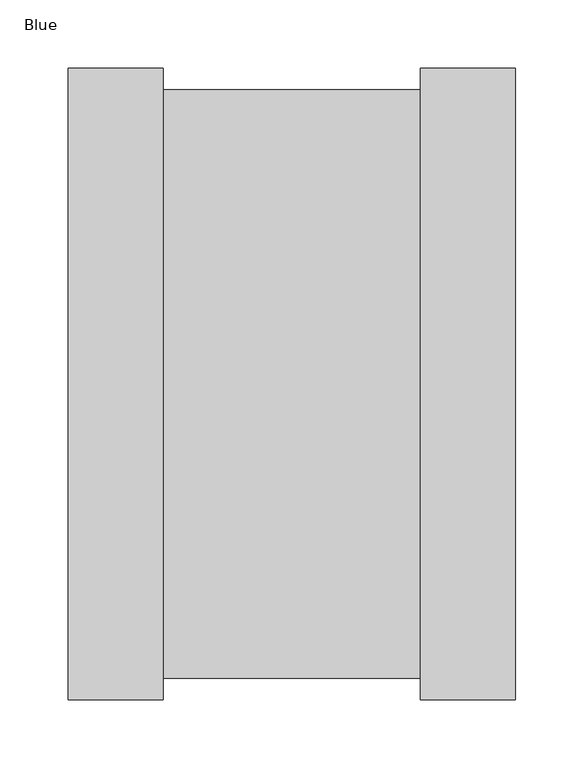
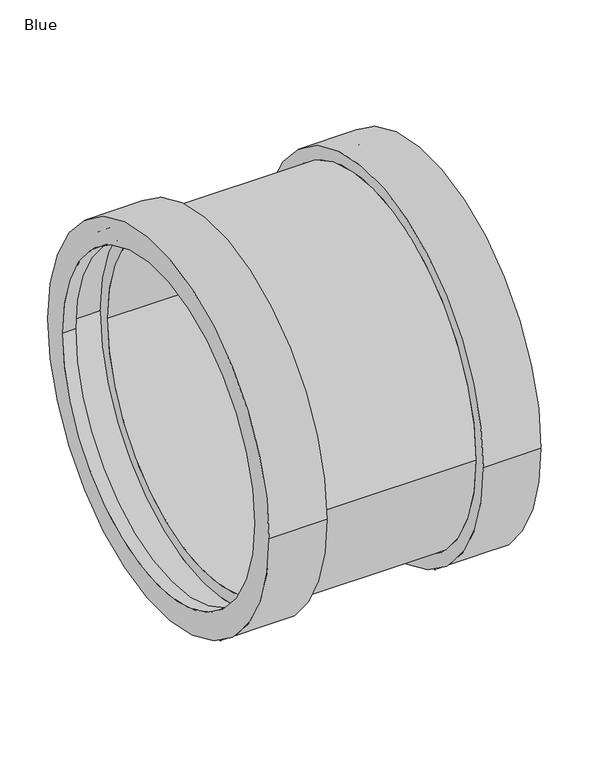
"""IFC4 building model written with IfcOpenShell, lengths in millimetres: pipe fitting geometry, AWADUKT PP Union USM : Blue."""

from ifc_helpers import new_model, si_unit, frame, origin, place, context, project, spatial, polyline, circle_curve, source, transform, mapped, element, save
from ifc_brep_helpers import plane_surface, cylinder_surface, revolved_surface, advanced_brep


def blue_81cd2d72(model_context):
    return source(origin(), model_context, "Body", "AdvancedBrep", [
        advanced_brep(
        [(-109.625, 200.0, 0.0), (-109.625, -200.0, 0.0), (109.625, -200.0, 0.0), (109.625, 200.0, 0.0), (-148.25, 215.45, 0.0), (-148.25, -215.45, 0.0), (-109.625, -215.45, 0.0), (-109.625, 215.45, 0.0), (-163.7, 200.0, 0.0), (-163.7, -200.0, 0.0), (-148.25, -200.0, 0.0), (-148.25, 200.0, 0.0), (-94.175, 230.9, 0.0), (-94.175, -230.9, 0.0), (-163.7, -230.9, 0.0), (-163.7, 230.9, 0.0), (94.175, 215.45, 0.0), (94.175, -215.45, 0.0), (-94.175, -215.45, 0.0), (-94.175, 215.45, 0.0), (163.7, 230.9, 0.0), (163.7, -230.9, 0.0), (94.175, -230.9, 0.0), (94.175, 230.9, 0.0), (148.25, 200.0, 0.0), (148.25, -200.0, 0.0), (163.7, -200.0, 0.0), (163.7, 200.0, 0.0), (109.625, 215.45, 0.0), (109.625, -215.45, 0.0), (148.25, -215.45, 0.0), (148.25, 215.45, 0.0)],
        [
            (0, 1, circle_curve(frame((-109.625, 0.0, 0.0), z_axis=(-1.0, 0.0, 0.0), x_axis=(0.0, -1.0, 0.0)), 200.0)),
            (1, 2),
            (2, 3, circle_curve(frame((109.625, 0.0, 0.0), z_axis=(1.0, 0.0, 0.0), x_axis=(0.0, -1.0, 0.0)), 200.0)),
            (3, 0),
            (4, 5, circle_curve(frame((-148.25, 0.0, 0.0), z_axis=(-1.0, 0.0, 0.0), x_axis=(0.0, -1.0, 0.0)), 215.45)),
            (5, 6),
            (6, 7, circle_curve(frame((-109.625, 0.0, 0.0), z_axis=(1.0, 0.0, 0.0), x_axis=(0.0, -1.0, 0.0)), 215.45)),
            (7, 4),
            (8, 9, circle_curve(frame((-163.7, 0.0, 0.0), z_axis=(-1.0, 0.0, 0.0), x_axis=(0.0, -1.0, 0.0)), 200.0)),
            (9, 10),
            (10, 11, circle_curve(frame((-148.25, 0.0, 0.0), z_axis=(1.0, 0.0, 0.0), x_axis=(0.0, -1.0, 0.0)), 200.0)),
            (11, 8),
            (12, 13, circle_curve(frame((-94.175, 0.0, 0.0), z_axis=(-1.0, 0.0, 0.0), x_axis=(0.0, -1.0, 0.0)), 230.9)),
            (13, 14),
            (14, 15, circle_curve(frame((-163.7, 0.0, 0.0), z_axis=(1.0, 0.0, 0.0), x_axis=(0.0, -1.0, 0.0)), 230.9)),
            (15, 12),
            (16, 17, circle_curve(frame((94.175, 0.0, 0.0), z_axis=(-1.0, 0.0, 0.0), x_axis=(0.0, -1.0, 0.0)), 215.45)),
            (17, 18),
            (18, 19, circle_curve(frame((-94.175, 0.0, 0.0), z_axis=(1.0, 0.0, 0.0), x_axis=(0.0, -1.0, 0.0)), 215.45)),
            (19, 16),
            (20, 21, circle_curve(frame((163.7, 0.0, 0.0), z_axis=(-1.0, 0.0, 0.0), x_axis=(0.0, -1.0, 0.0)), 230.9)),
            (21, 22),
            (22, 23, circle_curve(frame((94.175, 0.0, 0.0), z_axis=(1.0, 0.0, 0.0), x_axis=(0.0, -1.0, 0.0)), 230.9)),
            (23, 20),
            (24, 25, circle_curve(frame((148.25, 0.0, 0.0), z_axis=(-1.0, 0.0, 0.0), x_axis=(0.0, -1.0, 0.0)), 200.0)),
            (25, 26),
            (26, 27, circle_curve(frame((163.7, 0.0, 0.0), z_axis=(1.0, 0.0, 0.0), x_axis=(0.0, -1.0, 0.0)), 200.0)),
            (27, 24),
            (28, 29, circle_curve(frame((109.625, 0.0, 0.0), z_axis=(-1.0, 0.0, 0.0), x_axis=(0.0, -1.0, 0.0)), 215.45)),
            (29, 30),
            (30, 31, circle_curve(frame((148.25, 0.0, 0.0), z_axis=(1.0, 0.0, 0.0), x_axis=(0.0, -1.0, 0.0)), 215.45)),
            (31, 28),
            (1, 0, circle_curve(frame((-109.625, 0.0, 0.0), z_axis=(-1.0, 0.0, 0.0), x_axis=(0.0, 1.0, 0.0)), 200.0)),
            (3, 2, circle_curve(frame((109.625, 0.0, 0.0), z_axis=(1.0, 0.0, 0.0), x_axis=(0.0, 1.0, 0.0)), 200.0)),
            (6, 7, circle_curve(frame((-109.625, 0.0, 0.0), z_axis=(-1.0, 0.0, 0.0), x_axis=(0.0, 1.0, 0.0)), 215.45)),
            (5, 4, circle_curve(frame((-148.25, 0.0, 0.0), z_axis=(-1.0, 0.0, 0.0), x_axis=(0.0, 1.0, 0.0)), 215.45)),
            (10, 11, circle_curve(frame((-148.25, 0.0, 0.0), z_axis=(-1.0, 0.0, 0.0), x_axis=(0.0, 1.0, 0.0)), 200.0)),
            (9, 8, circle_curve(frame((-163.7, 0.0, 0.0), z_axis=(-1.0, 0.0, 0.0), x_axis=(0.0, 1.0, 0.0)), 200.0)),
            (14, 15, circle_curve(frame((-163.7, 0.0, 0.0), z_axis=(-1.0, 0.0, 0.0), x_axis=(0.0, 1.0, 0.0)), 230.9)),
            (13, 12, circle_curve(frame((-94.175, 0.0, 0.0), z_axis=(-1.0, 0.0, 0.0), x_axis=(0.0, 1.0, 0.0)), 230.9)),
            (18, 19, circle_curve(frame((-94.175, 0.0, 0.0), z_axis=(-1.0, 0.0, 0.0), x_axis=(0.0, 1.0, 0.0)), 215.45)),
            (17, 16, circle_curve(frame((94.175, 0.0, 0.0), z_axis=(-1.0, 0.0, 0.0), x_axis=(0.0, 1.0, 0.0)), 215.45)),
            (22, 23, circle_curve(frame((94.175, 0.0, 0.0), z_axis=(-1.0, 0.0, 0.0), x_axis=(0.0, 1.0, 0.0)), 230.9)),
            (21, 20, circle_curve(frame((163.7, 0.0, 0.0), z_axis=(-1.0, 0.0, 0.0), x_axis=(0.0, 1.0, 0.0)), 230.9)),
            (26, 27, circle_curve(frame((163.7, 0.0, 0.0), z_axis=(-1.0, 0.0, 0.0), x_axis=(0.0, 1.0, 0.0)), 200.0)),
            (25, 24, circle_curve(frame((148.25, 0.0, 0.0), z_axis=(-1.0, 0.0, 0.0), x_axis=(0.0, 1.0, 0.0)), 200.0)),
            (30, 31, circle_curve(frame((148.25, 0.0, 0.0), z_axis=(-1.0, 0.0, 0.0), x_axis=(0.0, 1.0, 0.0)), 215.45)),
            (29, 28, circle_curve(frame((109.625, 0.0, 0.0), z_axis=(-1.0, 0.0, 0.0), x_axis=(0.0, 1.0, 0.0)), 215.45)),
        ],
        [
            revolved_surface(polyline([(109.625, -200.0, 0.0), (-109.625, -200.0, 0.0)]), (0.0, 0.0, 0.0), (1.0, 0.0, 0.0)),
            revolved_surface(polyline([(-109.625, -215.45, 0.0), (-148.25, -215.45, 0.0)]), (0.0, 0.0, 0.0), (1.0, 0.0, 0.0)),
            revolved_surface(polyline([(-148.25, -200.0, 0.0), (-163.7, -200.0, 0.0)]), (0.0, 0.0, 0.0), (1.0, 0.0, 0.0)),
            cylinder_surface(frame((0.0, 0.0, 0.0), z_axis=(1.0, 0.0, 0.0), x_axis=(0.0, -1.0, 0.0)), 230.9),
            cylinder_surface(frame((0.0, 0.0, 0.0), z_axis=(1.0, 0.0, 0.0), x_axis=(0.0, -1.0, 0.0)), 215.45),
            revolved_surface(polyline([(163.7, -200.0, 0.0), (148.25, -200.0, 0.0)]), (0.0, 0.0, 0.0), (1.0, 0.0, 0.0)),
            revolved_surface(polyline([(148.25, -215.45, 0.0), (109.625, -215.45, 0.0)]), (0.0, 0.0, 0.0), (1.0, 0.0, 0.0)),
            revolved_surface(polyline([(109.625, 200.0, 0.0), (-109.625, 200.0, 0.0)]), (0.0, 0.0, 0.0), (1.0, 0.0, 0.0)),
            plane_surface(frame((-109.625, 0.0, 0.0), z_axis=(-1.0, 0.0, 0.0), x_axis=(0.0, 1.0, 0.0))),
            revolved_surface(polyline([(-109.625, 215.45, 0.0), (-148.25, 215.45, 0.0)]), (0.0, 0.0, 0.0), (1.0, 0.0, 0.0)),
            plane_surface(frame((-148.25, 0.0, 0.0), z_axis=(1.0, 0.0, 0.0), x_axis=(0.0, 1.0, 0.0))),
            revolved_surface(polyline([(-148.25, 200.0, 0.0), (-163.7, 200.0, 0.0)]), (0.0, 0.0, 0.0), (1.0, 0.0, 0.0)),
            plane_surface(frame((-163.7, 0.0, 0.0), z_axis=(-1.0, 0.0, 0.0), x_axis=(0.0, 1.0, 0.0))),
            cylinder_surface(frame((0.0, 0.0, 0.0), z_axis=(1.0, 0.0, 0.0), x_axis=(0.0, 1.0, 0.0)), 230.9),
            plane_surface(frame((-94.175, 0.0, 0.0), z_axis=(1.0, 0.0, 0.0), x_axis=(0.0, 1.0, 0.0))),
            cylinder_surface(frame((0.0, 0.0, 0.0), z_axis=(1.0, 0.0, 0.0), x_axis=(0.0, 1.0, 0.0)), 215.45),
            plane_surface(frame((94.175, 0.0, 0.0), z_axis=(-1.0, 0.0, 0.0), x_axis=(0.0, 1.0, 0.0))),
            plane_surface(frame((163.7, 0.0, 0.0), z_axis=(1.0, 0.0, 0.0), x_axis=(0.0, 1.0, 0.0))),
            revolved_surface(polyline([(163.7, 200.0, 0.0), (148.25, 200.0, 0.0)]), (0.0, 0.0, 0.0), (1.0, 0.0, 0.0)),
            plane_surface(frame((148.25, 0.0, 0.0), z_axis=(-1.0, 0.0, 0.0), x_axis=(0.0, 1.0, 0.0))),
            revolved_surface(polyline([(148.25, 215.45, 0.0), (109.625, 215.45, 0.0)]), (0.0, 0.0, 0.0), (1.0, 0.0, 0.0)),
            plane_surface(frame((109.625, 0.0, 0.0), z_axis=(1.0, 0.0, 0.0), x_axis=(0.0, 1.0, 0.0))),
        ],
        [
            (0, [[1, 2, 3, 4]]),
            (1, [[5, 6, 7, 8]]),
            (2, [[9, 10, 11, 12]]),
            (3, [[13, 14, 15, 16]]),
            (4, [[17, 18, 19, 20]]),
            (3, [[21, 22, 23, 24]]),
            (5, [[25, 26, 27, 28]]),
            (6, [[29, 30, 31, 32]]),
            (7, [[33, -4, 34, -2]]),
            (8, [[35, -7], [-33, -1]]),
            (9, [[36, -8, -35, -6]]),
            (10, [[-36, -5], [37, -11]]),
            (11, [[38, -12, -37, -10]]),
            (12, [[39, -15], [-38, -9]]),
            (13, [[40, -16, -39, -14]]),
            (14, [[-40, -13], [41, -19]]),
            (15, [[42, -20, -41, -18]]),
            (16, [[43, -23], [-42, -17]]),
            (13, [[44, -24, -43, -22]]),
            (17, [[-44, -21], [45, -27]]),
            (18, [[46, -28, -45, -26]]),
            (19, [[47, -31], [-46, -25]]),
            (20, [[48, -32, -47, -30]]),
            (21, [[-48, -29], [-34, -3]]),
        ],
    ),
    ])


if __name__ == "__main__":
    model = new_model("IFC4")
    model_context = context("Model", 3, world=origin())
    ifc_project = project(units=[si_unit("LENGTHUNIT", "METRE", prefix="MILLI")], contexts=[model_context])
    site = spatial("IfcSite", under=ifc_project)
    building = spatial("IfcBuilding", under=site)
    placement = place(None, origin())
    blue_shape = blue_81cd2d72(model_context)
    element("IfcPipeFitting", 1, ObjectType="AWADUKT PP Union USM : Blue", at=placement, inside=building, context=model_context, shape_type="MappedRepresentation", body=[
        mapped(blue_shape, transform((0.0, 0.0, 0.0), x_axis=(1.0, 0.0, 0.0), y_axis=(0.0, 1.0, 0.0), z_axis=(0.0, 0.0, 1.0))),
    ])
    save(model, "model.ifc")
